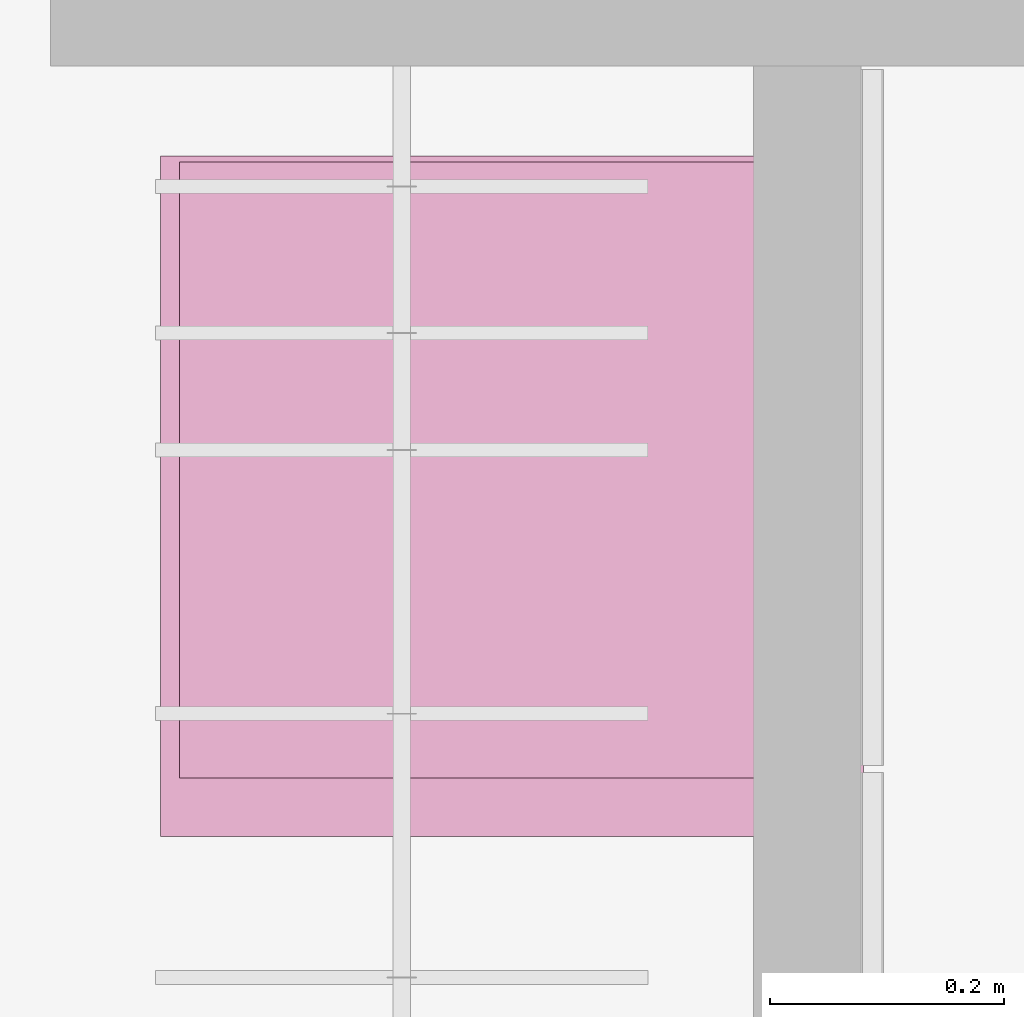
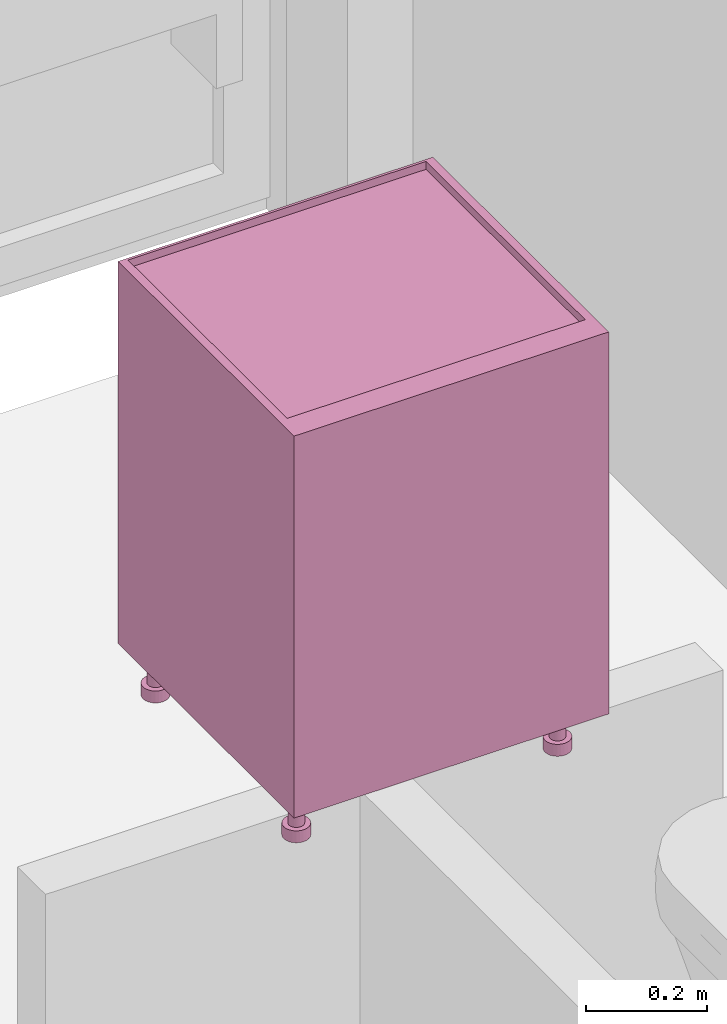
# One storey, part 29 of 68: 1 furnishing.
"""IFC2X3 building model written with IfcOpenShell, lengths in millimetres."""

from ifc_helpers import new_model, entity, si_unit, converted_unit, direction, frame, origin, place, context, subcontext, project, spatial, faceted_brep, source, transform, mapped, material, type_object, type_shapes, element, save


model = new_model("IFC2X3")

# Units and contexts
model_context = context("Model", 3, precision=0.01, world=origin(), true_north=direction((6.123233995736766e-17, 1.0)))
plan_context = context("Plan", 3, precision=0.01, world=origin(), true_north=direction((6.123233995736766e-17, 1.0)))
body_context = subcontext(model_context, "Body", "Model", "MODEL_VIEW")
ifc_project = project(units=[si_unit("LENGTHUNIT", "METRE", prefix="MILLI"), converted_unit("PLANEANGLEUNIT", "DEGREE", entity("IfcPlaneAngleMeasure", 0.017453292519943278), si_unit("PLANEANGLEUNIT", "RADIAN"), dimensions=[0, 0, 0, 0, 0, 0, 0]), si_unit("AREAUNIT", "SQUARE_METRE")], contexts=[model_context, plan_context])

# Site, building, storey, space
site_placement = place(None, origin())
site = spatial("IfcSite", under=ifc_project, at=site_placement, Name="Default", CompositionType="ELEMENT")
building_placement = place(site_placement, origin())
building = spatial("IfcBuilding", under=site, at=building_placement, CompositionType="ELEMENT")
storey_placement = place(building_placement, frame((0.0, 0.0, 6295.0)))
storey = spatial("IfcBuildingStorey", under=building, at=storey_placement, Name="3K", CompositionType="ELEMENT", Elevation=6294.999999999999)
space_placement = place(storey_placement, origin())
space = spatial("IfcSpace", under=storey, at=space_placement, Name="3-6.1", CompositionType="ELEMENT", InteriorOrExteriorSpace="INTERNAL")

# Furnishing
ifc_material = material(Name="<Unnamed>")
furniture_type = type_object("IfcFurnitureType", Name="HR_Casework_Kitchen_Generic_Appliance_v1:Dishwasher", AssemblyPlace="NOTDEFINED", material=ifc_material)
shared_shape = source(origin(), body_context, "Body", "Brep", [
    faceted_brep([(305.7003264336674, -585.7846096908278, -3101.0), (310.6708891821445, -581.9705627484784, -3101.0), (300.70032643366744, -577.1243556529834, -3101.0), (297.32379306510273, -578.5229615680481, -3101.0), (299.91198351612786, -588.1822198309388, -3101.0), (303.59982137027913, -574.8994949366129, -3101.0), (314.4849361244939, -577.0, -3101.0), (305.82468208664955, -572.0, -3101.0), (307.2232880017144, -568.6234666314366, -3101.0), (316.8825462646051, -571.2116570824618, -3101.0), (307.70032643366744, -565.0, -3101.0), (317.7003264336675, -565.0, -3101.0), (307.2232880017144, -561.3765333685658, -3101.0), (316.88254626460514, -558.7883429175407, -3101.0), (305.82468208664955, -558.0, -3101.0), (314.484936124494, -553.0, -3101.0), (303.59982137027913, -555.1005050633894, -3101.0), (310.67088918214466, -548.0294372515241, -3101.0), (300.70032643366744, -552.875644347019, -3101.0), (305.7003264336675, -544.2153903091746, -3101.0), (297.32379306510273, -551.4770384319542, -3101.0), (299.91198351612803, -541.8177801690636, -3101.0), (293.7003264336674, -551.0, -3101.0), (293.70032643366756, -541.0, -3101.0), (290.07685980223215, -551.4770384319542, -3101.0), (287.488669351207, -541.8177801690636, -3101.0), (286.70032643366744, -552.875644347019, -3101.0), (281.7003264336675, -544.2153903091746, -3101.0), (283.80083149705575, -555.1005050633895, -3101.0), (276.7297636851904, -548.029437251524, -3101.0), (281.5759707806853, -558.0, -3101.0), (272.91571674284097, -553.0, -3101.0), (270.51810660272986, -558.7883429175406, -3101.0), (280.1773648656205, -561.3765333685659, -3101.0), (269.7003264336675, -565.0, -3101.0), (279.7003264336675, -565.0, -3101.0), (270.51810660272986, -571.2116570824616, -3101.0), (280.1773648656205, -568.6234666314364, -3101.0), (272.9157167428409, -577.0, -3101.0), (281.57597078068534, -572.0, -3101.0), (276.7297636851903, -581.9705627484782, -3101.0), (283.80083149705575, -574.8994949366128, -3101.0), (281.70032643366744, -585.7846096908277, -3101.0), (286.70032643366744, -577.1243556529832, -3101.0), (287.4886693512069, -588.1822198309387, -3101.0), (290.07685980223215, -578.5229615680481, -3101.0), (293.7003264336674, -589.0, -3101.0), (293.70032643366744, -579.0, -3101.0), (299.91198351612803, -541.8177801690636, -3125.0), (305.7003264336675, -544.2153903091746, -3125.0), (310.67088918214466, -548.0294372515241, -3125.0), (314.484936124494, -553.0, -3125.0), (316.88254626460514, -558.7883429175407, -3125.0), (317.7003264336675, -565.0, -3125.0), (316.8825462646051, -571.2116570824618, -3125.0), (314.4849361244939, -577.0, -3125.0), (310.6708891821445, -581.9705627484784, -3125.0), (305.7003264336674, -585.7846096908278, -3125.0), (299.91198351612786, -588.1822198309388, -3125.0), (293.7003264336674, -589.0, -3125.0), (287.4886693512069, -588.1822198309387, -3125.0), (281.70032643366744, -585.7846096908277, -3125.0), (276.7297636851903, -581.9705627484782, -3125.0), (272.9157167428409, -577.0, -3125.0), (270.51810660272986, -571.2116570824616, -3125.0), (269.7003264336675, -565.0, -3125.0), (270.51810660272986, -558.7883429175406, -3125.0), (272.91571674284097, -553.0, -3125.0), (276.7297636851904, -548.029437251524, -3125.0), (281.7003264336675, -544.2153903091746, -3125.0), (287.488669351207, -541.8177801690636, -3125.0), (293.70032643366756, -541.0, -3125.0), (297.32379306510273, -578.5229615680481, -3025.0), (300.70032643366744, -577.1243556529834, -3025.0), (303.59982137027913, -574.8994949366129, -3025.0), (305.8246820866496, -572.0, -3025.0), (307.2232880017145, -568.6234666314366, -3025.0), (307.70032643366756, -565.0, -3025.0), (307.2232880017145, -561.3765333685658, -3025.0), (305.8246820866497, -558.0, -3025.0), (303.5998213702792, -555.1005050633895, -3025.0), (300.70032643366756, -552.875644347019, -3025.0), (297.32379306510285, -551.4770384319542, -3025.0), (293.70032643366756, -551.0, -3025.0), (290.07685980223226, -551.4770384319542, -3025.0), (286.70032643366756, -552.875644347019, -3025.0), (283.80083149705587, -555.1005050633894, -3025.0), (281.5759707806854, -558.0, -3025.0), (280.1773648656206, -561.3765333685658, -3025.0), (279.70032643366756, -565.0, -3025.0), (280.1773648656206, -568.6234666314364, -3025.0), (281.5759707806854, -572.0, -3025.0), (283.8008314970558, -574.8994949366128, -3025.0), (286.7003264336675, -577.1243556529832, -3025.0), (290.07685980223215, -578.5229615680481, -3025.0), (293.70032643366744, -579.0, -3025.0)], [[[0, 1, 2]], [[0, 2, 3]], [[3, 4, 0]], [[2, 1, 5]], [[6, 5, 1]], [[7, 5, 6]], [[8, 7, 6]], [[8, 6, 9]], [[8, 9, 10]], [[10, 9, 11]], [[12, 10, 11]], [[12, 11, 13]], [[14, 12, 13]], [[14, 13, 15]], [[16, 14, 15]], [[15, 17, 16]], [[17, 18, 16]], [[18, 17, 19]], [[18, 19, 20]], [[21, 20, 19]], [[20, 21, 22]], [[22, 21, 23]], [[23, 24, 22]], [[24, 23, 25]], [[24, 25, 26]], [[27, 26, 25]], [[27, 28, 26]], [[27, 29, 28]], [[30, 28, 29]], [[31, 30, 29]], [[32, 30, 31]], [[33, 30, 32]], [[33, 32, 34]], [[34, 35, 33]], [[36, 35, 34]], [[36, 37, 35]], [[37, 36, 38]], [[39, 37, 38]], [[39, 38, 40]], [[39, 40, 41]], [[40, 42, 41]], [[41, 42, 43]], [[43, 42, 44]], [[44, 45, 43]], [[46, 45, 44]], [[4, 47, 46]], [[45, 46, 47]], [[4, 3, 47]], [[48, 49, 50, 51, 52, 53, 54, 55, 56, 57, 58, 59, 60, 61, 62, 63, 64, 65, 66, 67, 68, 69, 70, 71]], [[64, 36, 34, 65]], [[63, 38, 36, 64]], [[42, 40, 62, 61]], [[63, 62, 40, 38]], [[44, 42, 61, 60]], [[46, 44, 60, 59]], [[58, 4, 46, 59]], [[57, 0, 4, 58]], [[54, 53, 11, 9]], [[1, 0, 57, 56]], [[6, 55, 54, 9]], [[6, 1, 56, 55]], [[52, 13, 11, 53]], [[51, 15, 13, 52]], [[19, 17, 50, 49]], [[51, 50, 17, 15]], [[21, 19, 49, 48]], [[23, 21, 48, 71]], [[27, 69, 68, 29]], [[31, 67, 66, 32]], [[68, 67, 31, 29]], [[32, 66, 65, 34]], [[25, 70, 69, 27]], [[70, 25, 23, 71]], [[72, 73, 74, 75, 76, 77, 78, 79, 80, 81, 82, 83, 84, 85, 86, 87, 88, 89, 90, 91, 92, 93, 94, 95]], [[37, 39, 91, 90]], [[35, 37, 90, 89]], [[43, 45, 94, 93]], [[41, 43, 93, 92]], [[39, 41, 92, 91]], [[47, 95, 94, 45]], [[2, 5, 74, 73]], [[3, 2, 73, 72]], [[8, 10, 77, 76]], [[7, 8, 76, 75]], [[5, 7, 75, 74]], [[3, 72, 95, 47]], [[79, 78, 12, 14]], [[78, 77, 10, 12]], [[80, 16, 18, 81]], [[16, 80, 79, 14]], [[81, 18, 20, 82]], [[22, 83, 82, 20]], [[26, 28, 86, 85]], [[24, 26, 85, 84]], [[33, 35, 89, 88]], [[30, 33, 88, 87]], [[28, 30, 87, 86]], [[24, 84, 83, 22]]]),
    faceted_brep([(-192.29967356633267, -585.7846096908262, -3101.0), (-187.3291108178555, -581.9705627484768, -3101.0), (-197.29967356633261, -577.1243556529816, -3101.0), (-200.67620693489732, -578.5229615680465, -3101.0), (-198.08801648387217, -588.1822198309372, -3101.0), (-194.40017862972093, -574.8994949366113, -3101.0), (-183.51506387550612, -577.0, -3101.0), (-192.17531791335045, -572.0, -3101.0), (-190.77671199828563, -568.6234666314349, -3101.0), (-181.11745373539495, -571.2116570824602, -3101.0), (-190.29967356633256, -565.0, -3101.0), (-180.29967356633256, -565.0, -3101.0), (-190.77671199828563, -561.3765333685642, -3101.0), (-181.11745373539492, -558.788342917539, -3101.0), (-192.17531791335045, -558.0, -3101.0), (-183.515063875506, -553.0, -3101.0), (-194.40017862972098, -555.1005050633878, -3101.0), (-187.3291108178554, -548.0294372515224, -3101.0), (-197.29967356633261, -552.8756443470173, -3101.0), (-192.29967356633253, -544.215390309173, -3101.0), (-200.67620693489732, -551.4770384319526, -3101.0), (-198.08801648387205, -541.8177801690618, -3101.0), (-204.29967356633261, -551.0, -3101.0), (-204.29967356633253, -541.0, -3101.0), (-207.92314019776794, -551.4770384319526, -3101.0), (-210.51133064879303, -541.8177801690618, -3101.0), (-211.29967356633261, -552.8756443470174, -3101.0), (-216.29967356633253, -544.215390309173, -3101.0), (-214.19916850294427, -555.1005050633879, -3101.0), (-221.27023631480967, -548.0294372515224, -3101.0), (-216.42402921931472, -558.0, -3101.0), (-225.08428325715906, -553.0, -3101.0), (-227.48189339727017, -558.788342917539, -3101.0), (-217.8226351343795, -561.3765333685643, -3101.0), (-228.2996735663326, -565.0, -3101.0), (-218.29967356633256, -565.0, -3101.0), (-227.48189339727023, -571.21165708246, -3101.0), (-217.8226351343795, -568.6234666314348, -3101.0), (-225.08428325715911, -577.0, -3101.0), (-216.42402921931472, -572.0, -3101.0), (-221.27023631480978, -581.9705627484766, -3101.0), (-214.19916850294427, -574.8994949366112, -3101.0), (-216.29967356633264, -585.784609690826, -3101.0), (-211.29967356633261, -577.1243556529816, -3101.0), (-210.51133064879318, -588.1822198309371, -3101.0), (-207.9231401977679, -578.5229615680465, -3101.0), (-204.2996735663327, -589.0, -3101.0), (-204.29967356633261, -579.0, -3101.0), (-198.08801648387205, -541.8177801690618, -3125.0), (-192.29967356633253, -544.215390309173, -3125.0), (-187.3291108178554, -548.0294372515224, -3125.0), (-183.515063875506, -553.0, -3125.0), (-181.11745373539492, -558.788342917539, -3125.0), (-180.29967356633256, -565.0, -3125.0), (-181.11745373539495, -571.2116570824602, -3125.0), (-183.51506387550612, -577.0, -3125.0), (-187.3291108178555, -581.9705627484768, -3125.0), (-192.29967356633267, -585.7846096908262, -3125.0), (-198.08801648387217, -588.1822198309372, -3125.0), (-204.2996735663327, -589.0, -3125.0), (-210.51133064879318, -588.1822198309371, -3125.0), (-216.29967356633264, -585.784609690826, -3125.0), (-221.27023631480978, -581.9705627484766, -3125.0), (-225.08428325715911, -577.0, -3125.0), (-227.48189339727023, -571.21165708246, -3125.0), (-228.2996735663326, -565.0, -3125.0), (-227.48189339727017, -558.788342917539, -3125.0), (-225.08428325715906, -553.0, -3125.0), (-221.27023631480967, -548.0294372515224, -3125.0), (-216.29967356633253, -544.215390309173, -3125.0), (-210.51133064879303, -541.8177801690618, -3125.0), (-204.29967356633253, -541.0, -3125.0), (-200.67620693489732, -578.5229615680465, -3025.0), (-197.29967356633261, -577.1243556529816, -3025.0), (-194.40017862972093, -574.8994949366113, -3025.0), (-192.17531791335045, -572.0, -3025.0), (-190.77671199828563, -568.6234666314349, -3025.0), (-190.29967356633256, -565.0, -3025.0), (-190.77671199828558, -561.3765333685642, -3025.0), (-192.1753179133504, -558.0, -3025.0), (-194.40017862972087, -555.1005050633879, -3025.0), (-197.29967356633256, -552.8756443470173, -3025.0), (-200.67620693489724, -551.4770384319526, -3025.0), (-204.29967356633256, -551.0, -3025.0), (-207.92314019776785, -551.4770384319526, -3025.0), (-211.29967356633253, -552.8756443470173, -3025.0), (-214.1991685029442, -555.1005050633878, -3025.0), (-216.4240292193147, -558.0, -3025.0), (-217.8226351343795, -561.3765333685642, -3025.0), (-218.29967356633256, -565.0, -3025.0), (-217.8226351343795, -568.6234666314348, -3025.0), (-216.42402921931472, -572.0, -3025.0), (-214.19916850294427, -574.8994949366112, -3025.0), (-211.2996735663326, -577.1243556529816, -3025.0), (-207.9231401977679, -578.5229615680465, -3025.0), (-204.29967356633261, -579.0, -3025.0)], [[[0, 1, 2]], [[0, 2, 3]], [[3, 4, 0]], [[2, 1, 5]], [[6, 5, 1]], [[7, 5, 6]], [[8, 7, 6]], [[8, 6, 9]], [[8, 9, 10]], [[10, 9, 11]], [[12, 10, 11]], [[12, 11, 13]], [[14, 12, 13]], [[14, 13, 15]], [[16, 14, 15]], [[15, 17, 16]], [[17, 18, 16]], [[18, 17, 19]], [[18, 19, 20]], [[21, 20, 19]], [[20, 21, 22]], [[22, 21, 23]], [[23, 24, 22]], [[24, 23, 25]], [[24, 25, 26]], [[27, 26, 25]], [[27, 28, 26]], [[27, 29, 28]], [[30, 28, 29]], [[31, 30, 29]], [[32, 30, 31]], [[33, 30, 32]], [[33, 32, 34]], [[34, 35, 33]], [[36, 35, 34]], [[36, 37, 35]], [[37, 36, 38]], [[39, 37, 38]], [[39, 38, 40]], [[39, 40, 41]], [[40, 42, 41]], [[41, 42, 43]], [[43, 42, 44]], [[44, 45, 43]], [[46, 45, 44]], [[4, 47, 46]], [[45, 46, 47]], [[4, 3, 47]], [[48, 49, 50, 51, 52, 53, 54, 55, 56, 57, 58, 59, 60, 61, 62, 63, 64, 65, 66, 67, 68, 69, 70, 71]], [[64, 36, 34, 65]], [[63, 38, 36, 64]], [[42, 40, 62, 61]], [[63, 62, 40, 38]], [[44, 42, 61, 60]], [[46, 44, 60, 59]], [[58, 4, 46, 59]], [[57, 0, 4, 58]], [[54, 53, 11, 9]], [[1, 0, 57, 56]], [[6, 55, 54, 9]], [[6, 1, 56, 55]], [[52, 13, 11, 53]], [[51, 15, 13, 52]], [[19, 17, 50, 49]], [[51, 50, 17, 15]], [[21, 19, 49, 48]], [[23, 21, 48, 71]], [[27, 69, 68, 29]], [[31, 67, 66, 32]], [[68, 67, 31, 29]], [[32, 66, 65, 34]], [[25, 70, 69, 27]], [[70, 25, 23, 71]], [[72, 73, 74, 75, 76, 77, 78, 79, 80, 81, 82, 83, 84, 85, 86, 87, 88, 89, 90, 91, 92, 93, 94, 95]], [[37, 39, 91, 90]], [[35, 37, 90, 89]], [[43, 45, 94, 93]], [[41, 43, 93, 92]], [[39, 41, 92, 91]], [[47, 95, 94, 45]], [[2, 5, 74, 73]], [[3, 2, 73, 72]], [[8, 10, 77, 76]], [[7, 8, 76, 75]], [[5, 7, 75, 74]], [[3, 72, 95, 47]], [[79, 78, 12, 14]], [[78, 77, 10, 12]], [[80, 16, 18, 81]], [[16, 80, 79, 14]], [[81, 18, 20, 82]], [[22, 83, 82, 20]], [[26, 28, 86, 85]], [[24, 26, 85, 84]], [[33, 35, 89, 88]], [[30, 33, 88, 87]], [[28, 30, 87, 86]], [[24, 84, 83, 22]]]),
    faceted_brep([(305.70032643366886, -120.78460969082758, -3101.0), (310.670889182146, -116.97056274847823, -3101.0), (300.7003264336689, -112.12435565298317, -3101.0), (297.3237930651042, -113.52296156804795, -3101.0), (299.91198351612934, -123.18221983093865, -3101.0), (303.5998213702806, -109.8994949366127, -3101.0), (314.48493612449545, -112.0, -3101.0), (305.824682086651, -107.0, -3101.0), (307.2232880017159, -103.62346663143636, -3101.0), (316.88254626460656, -106.21165708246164, -3101.0), (307.700326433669, -100.0, -3101.0), (317.700326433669, -100.0, -3101.0), (307.2232880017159, -96.3765333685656, -3101.0), (316.8825462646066, -93.78834291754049, -3101.0), (305.824682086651, -93.0, -3101.0), (314.4849361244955, -88.0, -3101.0), (303.5998213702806, -90.10050506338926, -3101.0), (310.67088918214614, -83.02943725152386, -3101.0), (300.7003264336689, -87.8756443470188, -3101.0), (305.700326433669, -79.21539030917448, -3101.0), (297.3237930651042, -86.477038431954, -3101.0), (299.9119835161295, -76.81778016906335, -3101.0), (293.70032643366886, -86.0, -3101.0), (293.70032643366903, -76.0, -3101.0), (290.0768598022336, -86.47703843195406, -3101.0), (287.4886693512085, -76.81778016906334, -3101.0), (286.7003264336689, -87.87564434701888, -3101.0), (281.700326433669, -79.21539030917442, -3101.0), (283.8008314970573, -90.10050506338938, -3101.0), (276.72976368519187, -83.0294372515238, -3101.0), (281.5759707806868, -93.0, -3101.0), (272.91571674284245, -88.0, -3101.0), (270.51810660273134, -93.78834291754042, -3101.0), (280.177364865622, -96.37653336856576, -3101.0), (269.700326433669, -100.0, -3101.0), (279.700326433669, -100.0, -3101.0), (270.51810660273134, -106.2116570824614, -3101.0), (280.177364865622, -103.62346663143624, -3101.0), (272.9157167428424, -112.0, -3101.0), (281.5759707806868, -107.0, -3101.0), (276.72976368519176, -116.97056274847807, -3101.0), (283.8008314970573, -109.89949493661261, -3101.0), (281.7003264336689, -120.78460969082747, -3101.0), (286.7003264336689, -112.1243556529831, -3101.0), (287.4886693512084, -123.1822198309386, -3101.0), (290.0768598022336, -113.52296156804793, -3101.0), (293.70032643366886, -124.0, -3101.0), (293.7003264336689, -114.0, -3101.0), (299.9119835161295, -76.81778016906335, -3125.0), (305.700326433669, -79.21539030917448, -3125.0), (310.67088918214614, -83.02943725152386, -3125.0), (314.4849361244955, -88.0, -3125.0), (316.8825462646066, -93.78834291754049, -3125.0), (317.700326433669, -100.0, -3125.0), (316.88254626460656, -106.21165708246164, -3125.0), (314.48493612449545, -112.0, -3125.0), (310.670889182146, -116.97056274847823, -3125.0), (305.70032643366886, -120.78460969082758, -3125.0), (299.91198351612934, -123.18221983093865, -3125.0), (293.70032643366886, -124.0, -3125.0), (287.4886693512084, -123.1822198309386, -3125.0), (281.7003264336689, -120.78460969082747, -3125.0), (276.72976368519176, -116.97056274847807, -3125.0), (272.9157167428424, -112.0, -3125.0), (270.51810660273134, -106.2116570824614, -3125.0), (269.700326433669, -100.0, -3125.0), (270.51810660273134, -93.78834291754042, -3125.0), (272.91571674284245, -88.0, -3125.0), (276.72976368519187, -83.0294372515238, -3125.0), (281.700326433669, -79.21539030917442, -3125.0), (287.4886693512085, -76.81778016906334, -3125.0), (293.70032643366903, -76.0, -3125.0), (297.32379306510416, -113.52296156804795, -3025.0), (300.70032643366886, -112.12435565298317, -3025.0), (303.59982137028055, -109.8994949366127, -3025.0), (305.824682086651, -107.0, -3025.0), (307.22328800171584, -103.62346663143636, -3025.0), (307.700326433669, -100.0, -3025.0), (307.2232880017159, -96.3765333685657, -3025.0), (305.82468208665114, -93.0, -3025.0), (303.5998213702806, -90.10050506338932, -3025.0), (300.700326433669, -87.87564434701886, -3025.0), (297.32379306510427, -86.47703843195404, -3025.0), (293.700326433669, -86.0, -3025.0), (290.0768598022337, -86.47703843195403, -3025.0), (286.700326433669, -87.87564434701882, -3025.0), (283.8008314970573, -90.1005050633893, -3025.0), (281.5759707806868, -93.0, -3025.0), (280.177364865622, -96.37653336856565, -3025.0), (279.700326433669, -100.0, -3025.0), (280.177364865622, -103.62346663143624, -3025.0), (281.5759707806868, -107.0, -3025.0), (283.80083149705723, -109.89949493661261, -3025.0), (286.7003264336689, -112.1243556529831, -3025.0), (290.07685980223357, -113.52296156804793, -3025.0), (293.70032643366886, -114.0, -3025.0)], [[[0, 1, 2]], [[0, 2, 3]], [[3, 4, 0]], [[2, 1, 5]], [[6, 5, 1]], [[7, 5, 6]], [[8, 7, 6]], [[8, 6, 9]], [[8, 9, 10]], [[10, 9, 11]], [[12, 10, 11]], [[12, 11, 13]], [[14, 12, 13]], [[14, 13, 15]], [[16, 14, 15]], [[15, 17, 16]], [[17, 18, 16]], [[18, 17, 19]], [[18, 19, 20]], [[21, 20, 19]], [[20, 21, 22]], [[22, 21, 23]], [[23, 24, 22]], [[24, 23, 25]], [[24, 25, 26]], [[27, 26, 25]], [[27, 28, 26]], [[27, 29, 28]], [[30, 28, 29]], [[31, 30, 29]], [[32, 30, 31]], [[33, 30, 32]], [[33, 32, 34]], [[34, 35, 33]], [[36, 35, 34]], [[36, 37, 35]], [[37, 36, 38]], [[39, 37, 38]], [[39, 38, 40]], [[39, 40, 41]], [[40, 42, 41]], [[41, 42, 43]], [[43, 42, 44]], [[44, 45, 43]], [[46, 45, 44]], [[4, 47, 46]], [[45, 46, 47]], [[4, 3, 47]], [[48, 49, 50, 51, 52, 53, 54, 55, 56, 57, 58, 59, 60, 61, 62, 63, 64, 65, 66, 67, 68, 69, 70, 71]], [[64, 36, 34, 65]], [[63, 38, 36, 64]], [[42, 40, 62, 61]], [[63, 62, 40, 38]], [[44, 42, 61, 60]], [[46, 44, 60, 59]], [[58, 4, 46, 59]], [[57, 0, 4, 58]], [[54, 53, 11, 9]], [[1, 0, 57, 56]], [[6, 55, 54, 9]], [[6, 1, 56, 55]], [[52, 13, 11, 53]], [[51, 15, 13, 52]], [[19, 17, 50, 49]], [[51, 50, 17, 15]], [[21, 19, 49, 48]], [[23, 21, 48, 71]], [[27, 69, 68, 29]], [[31, 67, 66, 32]], [[68, 67, 31, 29]], [[32, 66, 65, 34]], [[25, 70, 69, 27]], [[70, 25, 23, 71]], [[72, 73, 74, 75, 76, 77, 78, 79, 80, 81, 82, 83, 84, 85, 86, 87, 88, 89, 90, 91, 92, 93, 94, 95]], [[37, 39, 91, 90]], [[35, 37, 90, 89]], [[43, 45, 94, 93]], [[41, 43, 93, 92]], [[39, 41, 92, 91]], [[47, 95, 94, 45]], [[2, 5, 74, 73]], [[3, 2, 73, 72]], [[8, 10, 77, 76]], [[7, 8, 76, 75]], [[5, 7, 75, 74]], [[3, 72, 95, 47]], [[79, 78, 12, 14]], [[78, 77, 10, 12]], [[80, 16, 18, 81]], [[16, 80, 79, 14]], [[81, 18, 20, 82]], [[22, 83, 82, 20]], [[26, 28, 86, 85]], [[24, 26, 85, 84]], [[33, 35, 89, 88]], [[30, 33, 88, 87]], [[28, 30, 87, 86]], [[24, 84, 83, 22]]]),
    faceted_brep([(-192.299673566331, -120.78460969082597, -3101.0), (-187.3291108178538, -116.97056274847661, -3101.0), (-197.29967356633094, -112.12435565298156, -3101.0), (-200.67620693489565, -113.52296156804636, -3101.0), (-198.0880164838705, -123.18221983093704, -3101.0), (-194.40017862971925, -109.89949493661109, -3101.0), (-183.5150638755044, -112.0, -3101.0), (-192.17531791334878, -107.0, -3101.0), (-190.77671199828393, -103.62346663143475, -3101.0), (-181.11745373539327, -106.21165708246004, -3101.0), (-190.29967356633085, -100.0, -3101.0), (-180.29967356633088, -100.0, -3101.0), (-190.77671199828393, -96.376533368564, -3101.0), (-181.11745373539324, -93.78834291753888, -3101.0), (-192.17531791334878, -93.0, -3101.0), (-183.51506387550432, -88.0, -3101.0), (-194.40017862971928, -90.10050506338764, -3101.0), (-187.32911081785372, -83.02943725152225, -3101.0), (-197.29967356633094, -87.8756443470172, -3101.0), (-192.29967356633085, -79.21539030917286, -3101.0), (-200.67620693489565, -86.4770384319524, -3101.0), (-198.08801648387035, -76.81778016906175, -3101.0), (-204.29967356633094, -86.0, -3101.0), (-204.29967356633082, -76.0, -3101.0), (-207.92314019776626, -86.47703843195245, -3101.0), (-210.51133064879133, -76.81778016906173, -3101.0), (-211.29967356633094, -87.87564434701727, -3101.0), (-216.29967356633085, -79.21539030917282, -3101.0), (-214.19916850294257, -90.10050506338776, -3101.0), (-221.270236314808, -83.0294372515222, -3101.0), (-216.424029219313, -93.0, -3101.0), (-225.08428325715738, -88.0, -3101.0), (-227.4818933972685, -93.78834291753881, -3101.0), (-217.82263513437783, -96.37653336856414, -3101.0), (-228.29967356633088, -100.0, -3101.0), (-218.29967356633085, -100.0, -3101.0), (-227.48189339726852, -106.2116570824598, -3101.0), (-217.82263513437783, -103.62346663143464, -3101.0), (-225.08428325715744, -112.0, -3101.0), (-216.424029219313, -107.0, -3101.0), (-221.27023631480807, -116.97056274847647, -3101.0), (-214.19916850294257, -109.899494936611, -3101.0), (-216.29967356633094, -120.78460969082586, -3101.0), (-211.29967356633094, -112.12435565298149, -3101.0), (-210.51133064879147, -123.18221983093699, -3101.0), (-207.9231401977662, -113.52296156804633, -3101.0), (-204.299673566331, -124.0, -3101.0), (-204.29967356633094, -114.0, -3101.0), (-198.08801648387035, -76.81778016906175, -3125.0), (-192.29967356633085, -79.21539030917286, -3125.0), (-187.32911081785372, -83.02943725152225, -3125.0), (-183.51506387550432, -88.0, -3125.0), (-181.11745373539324, -93.78834291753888, -3125.0), (-180.29967356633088, -100.0, -3125.0), (-181.11745373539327, -106.21165708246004, -3125.0), (-183.5150638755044, -112.0, -3125.0), (-187.3291108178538, -116.97056274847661, -3125.0), (-192.299673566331, -120.78460969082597, -3125.0), (-198.0880164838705, -123.18221983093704, -3125.0), (-204.299673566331, -124.0, -3125.0), (-210.51133064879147, -123.18221983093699, -3125.0), (-216.29967356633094, -120.78460969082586, -3125.0), (-221.27023631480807, -116.97056274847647, -3125.0), (-225.08428325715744, -112.0, -3125.0), (-227.48189339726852, -106.2116570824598, -3125.0), (-228.29967356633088, -100.0, -3125.0), (-227.4818933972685, -93.78834291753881, -3125.0), (-225.08428325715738, -88.0, -3125.0), (-221.270236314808, -83.0294372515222, -3125.0), (-216.29967356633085, -79.21539030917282, -3125.0), (-210.51133064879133, -76.81778016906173, -3125.0), (-204.29967356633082, -76.0, -3125.0), (-200.67620693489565, -113.52296156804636, -3025.0), (-197.29967356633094, -112.12435565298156, -3025.0), (-194.40017862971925, -109.89949493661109, -3025.0), (-192.17531791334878, -107.0, -3025.0), (-190.77671199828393, -103.62346663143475, -3025.0), (-190.29967356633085, -100.0, -3025.0), (-190.7767119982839, -96.3765333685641, -3025.0), (-192.1753179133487, -93.0, -3025.0), (-194.4001786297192, -90.10050506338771, -3025.0), (-197.29967356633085, -87.87564434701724, -3025.0), (-200.67620693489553, -86.47703843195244, -3025.0), (-204.29967356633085, -86.0, -3025.0), (-207.92314019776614, -86.47703843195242, -3025.0), (-211.29967356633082, -87.87564434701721, -3025.0), (-214.1991685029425, -90.10050506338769, -3025.0), (-216.42402921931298, -93.0, -3025.0), (-217.82263513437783, -96.37653336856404, -3025.0), (-218.29967356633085, -100.0, -3025.0), (-217.82263513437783, -103.62346663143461, -3025.0), (-216.424029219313, -107.0, -3025.0), (-214.19916850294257, -109.899494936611, -3025.0), (-211.29967356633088, -112.12435565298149, -3025.0), (-207.9231401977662, -113.52296156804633, -3025.0), (-204.29967356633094, -114.0, -3025.0)], [[[0, 1, 2]], [[0, 2, 3]], [[3, 4, 0]], [[2, 1, 5]], [[6, 5, 1]], [[7, 5, 6]], [[8, 7, 6]], [[8, 6, 9]], [[8, 9, 10]], [[10, 9, 11]], [[12, 10, 11]], [[12, 11, 13]], [[14, 12, 13]], [[14, 13, 15]], [[16, 14, 15]], [[15, 17, 16]], [[17, 18, 16]], [[18, 17, 19]], [[18, 19, 20]], [[21, 20, 19]], [[20, 21, 22]], [[22, 21, 23]], [[23, 24, 22]], [[24, 23, 25]], [[24, 25, 26]], [[27, 26, 25]], [[27, 28, 26]], [[27, 29, 28]], [[30, 28, 29]], [[31, 30, 29]], [[32, 30, 31]], [[33, 30, 32]], [[33, 32, 34]], [[34, 35, 33]], [[36, 35, 34]], [[36, 37, 35]], [[37, 36, 38]], [[39, 37, 38]], [[39, 38, 40]], [[39, 40, 41]], [[40, 42, 41]], [[41, 42, 43]], [[43, 42, 44]], [[44, 45, 43]], [[46, 45, 44]], [[4, 47, 46]], [[45, 46, 47]], [[4, 3, 47]], [[48, 49, 50, 51, 52, 53, 54, 55, 56, 57, 58, 59, 60, 61, 62, 63, 64, 65, 66, 67, 68, 69, 70, 71]], [[64, 36, 34, 65]], [[63, 38, 36, 64]], [[42, 40, 62, 61]], [[63, 62, 40, 38]], [[44, 42, 61, 60]], [[46, 44, 60, 59]], [[58, 4, 46, 59]], [[57, 0, 4, 58]], [[54, 53, 11, 9]], [[1, 0, 57, 56]], [[6, 55, 54, 9]], [[6, 1, 56, 55]], [[52, 13, 11, 53]], [[51, 15, 13, 52]], [[19, 17, 50, 49]], [[51, 50, 17, 15]], [[21, 19, 49, 48]], [[23, 21, 48, 71]], [[27, 69, 68, 29]], [[31, 67, 66, 32]], [[68, 67, 31, 29]], [[32, 66, 65, 34]], [[25, 70, 69, 27]], [[70, 25, 23, 71]], [[72, 73, 74, 75, 76, 77, 78, 79, 80, 81, 82, 83, 84, 85, 86, 87, 88, 89, 90, 91, 92, 93, 94, 95]], [[37, 39, 91, 90]], [[35, 37, 90, 89]], [[43, 45, 94, 93]], [[41, 43, 93, 92]], [[39, 41, 92, 91]], [[47, 95, 94, 45]], [[2, 5, 74, 73]], [[3, 2, 73, 72]], [[8, 10, 77, 76]], [[7, 8, 76, 75]], [[5, 7, 75, 74]], [[3, 72, 95, 47]], [[79, 78, 12, 14]], [[78, 77, 10, 12]], [[80, 16, 18, 81]], [[16, 80, 79, 14]], [[81, 18, 20, 82]], [[22, 83, 82, 20]], [[26, 28, 86, 85]], [[24, 26, 85, 84]], [[33, 35, 89, 88]], [[30, 33, 88, 87]], [[28, 30, 87, 86]], [[24, 84, 83, 22]]]),
    faceted_brep([(328.70032643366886, -19.0, -3009.0), (-239.2996735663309, -19.0, -3009.0), (-239.29967356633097, -595.0, -3009.0), (328.70032643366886, -595.0, -3009.0), (328.70032643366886, -19.0, -3025.0), (328.70032643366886, -595.0, -3025.0), (-239.29967356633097, -595.0, -3025.0), (-239.29967356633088, -19.0, -3025.0)], [[[0, 1, 2, 3]], [[4, 5, 6, 7]], [[1, 0, 4, 7]], [[2, 1, 7, 6]], [[3, 2, 6, 5]], [[0, 3, 5, 4]]]),
    faceted_brep([(-255.29967356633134, -19.0, -2255.0), (-255.2996735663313, -600.0, -2255.0), (344.7003264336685, -600.0, -2255.0), (344.7003264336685, -19.0, -2255.0), (328.70032643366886, -19.0, -2255.0), (328.70032643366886, -595.0, -2255.0), (-239.2996735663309, -595.0, -2255.0), (-239.2996735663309, -19.0, -2255.0), (-255.29967356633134, -19.0, -3025.0), (-239.2996735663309, -19.0, -3025.0), (-239.29967356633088, -595.0, -3025.0), (328.70032643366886, -595.0, -3025.0), (328.70032643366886, -19.0, -3025.0), (344.7003264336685, -19.0, -3025.0), (344.7003264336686, -600.0, -3025.0), (-255.2996735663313, -600.0, -3025.0)], [[[0, 1, 2, 3, 4, 5, 6, 7]], [[8, 9, 10, 11, 12, 13, 14, 15]], [[1, 0, 8, 15]], [[0, 7, 9, 8]], [[7, 6, 10, 9]], [[5, 4, 12, 11]], [[4, 3, 13, 12]], [[3, 2, 14, 13]], [[2, 1, 15, 14]], [[6, 5, 11, 10]]]),
    faceted_brep([(328.70032643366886, -69.0, -2255.0), (328.70032643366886, -19.0, -2255.0), (-239.29967356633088, -19.0, -2255.0), (-239.29967356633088, -69.0, -2255.0), (328.70032643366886, -69.0, -2271.0), (-239.29967356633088, -69.0, -2271.0), (-239.29967356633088, -19.0, -2271.0), (328.70032643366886, -19.0, -2271.0)], [[[0, 1, 2, 3]], [[4, 5, 6, 7]], [[0, 3, 5, 4]], [[3, 2, 6, 5]], [[2, 1, 7, 6]], [[1, 0, 4, 7]]]),
    faceted_brep([(328.7003264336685, -19.0, -2271.0), (-239.29967356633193, -19.0, -2271.0), (-239.2996735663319, -595.0, -2271.0), (328.7003264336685, -595.0, -2271.0), (328.7003264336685, -19.0, -3009.0), (328.7003264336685, -595.0, -3009.0), (-239.2996735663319, -595.0, -3009.0), (-239.2996735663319, -19.0, -3009.0)], [[[0, 1, 2, 3]], [[4, 5, 6, 7]], [[1, 0, 4, 7]], [[2, 1, 7, 6]], [[3, 2, 6, 5]], [[0, 3, 5, 4]]]),
])
type_shapes(furniture_type, [shared_shape])
furnishing_placement = place(space_placement, frame((6996.700326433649, 10061.0, 6295.000076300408), z_axis=(0.0, 0.0, 1.0), x_axis=(-1.0, 0.0, 0.0)))
element("IfcFurnishingElement", 1, at=furnishing_placement, inside=space, type_object=furniture_type, material=ifc_material, Name="HR_Casework_Kitchen_Generic_Appliance_v1:Dishwasher", ObjectType="HR_Casework_Kitchen_Generic_Appliance_v1:Dishwasher", context=body_context, shape_type="MappedRepresentation", body=[
    mapped(shared_shape, transform((0.0, 0.0, 0.0), scale=1.0)),
])

save(model, "model.ifc")
